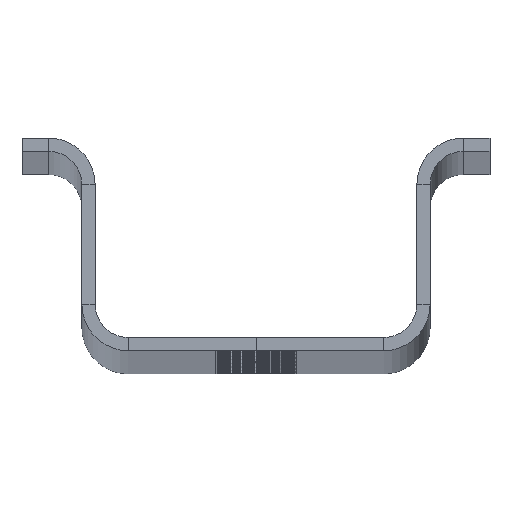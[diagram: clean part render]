
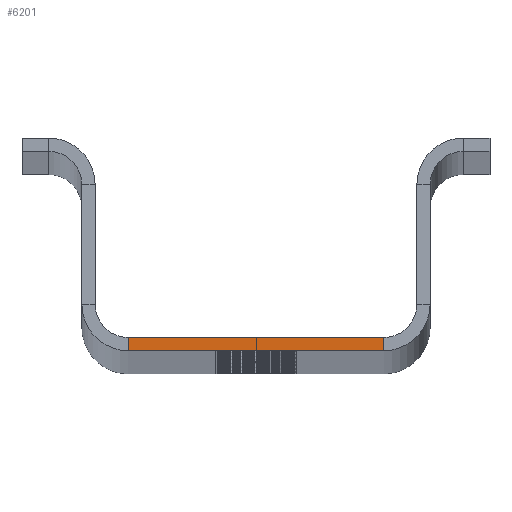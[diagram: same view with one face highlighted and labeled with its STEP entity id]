
A CAD part, top view. The second image highlights one B-rep face of the part: STEP entity #6201.
In plain terms, the highlighted planar face has unit normal (0, 0, 1).
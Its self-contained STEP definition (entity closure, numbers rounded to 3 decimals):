
#36 = VERTEX_POINT ( 'NONE', #7837 ) ;
#194 = VERTEX_POINT ( 'NONE', #5541 ) ;
#553 = VECTOR ( 'NONE', #2946, 1000. ) ;
#946 = CARTESIAN_POINT ( 'NONE',  ( -9.6, 0., 1000. ) ) ;
#1109 = AXIS2_PLACEMENT_3D ( 'NONE', #5712, #2041, #3305 ) ;
#1565 = DIRECTION ( 'NONE',  ( 0., -1., 0. ) ) ;
#1721 = VECTOR ( 'NONE', #1565, 1000. ) ;
#1831 = CARTESIAN_POINT ( 'NONE',  ( 9.6, 0., 1000. ) ) ;
#2041 = DIRECTION ( 'NONE',  ( 0., 0., 1. ) ) ;
#2276 = CARTESIAN_POINT ( 'NONE',  ( 9.6, -1., 1000. ) ) ;
#2802 = EDGE_CURVE ( 'NONE', #6170, #36, #4881, .T. ) ;
#2823 = ORIENTED_EDGE ( 'NONE', *, *, #6951, .T. ) ;
#2946 = DIRECTION ( 'NONE',  ( -1., 0., 0. ) ) ;
#3081 = DIRECTION ( 'NONE',  ( -1., 0., 0. ) ) ;
#3305 = DIRECTION ( 'NONE',  ( 1., 0., 0. ) ) ;
#3405 = ORIENTED_EDGE ( 'NONE', *, *, #5732, .T. ) ;
#4543 = PLANE ( 'NONE',  #1109 ) ;
#4621 = CARTESIAN_POINT ( 'NONE',  ( 9.6, -1., 1000. ) ) ;
#4881 = LINE ( 'NONE', #6845, #6496 ) ;
#4890 = LINE ( 'NONE', #946, #1721 ) ;
#5288 = VERTEX_POINT ( 'NONE', #1831 ) ;
#5289 = DIRECTION ( 'NONE',  ( 0., 1., 0. ) ) ;
#5323 = ORIENTED_EDGE ( 'NONE', *, *, #2802, .F. ) ;
#5458 = LINE ( 'NONE', #6534, #553 ) ;
#5541 = CARTESIAN_POINT ( 'NONE',  ( -9.6, 0., 1000. ) ) ;
#5695 = ORIENTED_EDGE ( 'NONE', *, *, #5847, .T. ) ;
#5712 = CARTESIAN_POINT ( 'NONE',  ( -13.1, 2.5, 1000. ) ) ;
#5732 = EDGE_CURVE ( 'NONE', #194, #36, #4890, .T. ) ;
#5847 = EDGE_CURVE ( 'NONE', #5288, #194, #5458, .T. ) ;
#6064 = EDGE_LOOP ( 'NONE', ( #5695, #3405, #5323, #2823 ) ) ;
#6112 = VECTOR ( 'NONE', #5289, 1000. ) ;
#6170 = VERTEX_POINT ( 'NONE', #4621 ) ;
#6201 = ADVANCED_FACE ( 'NONE', ( #6236 ), #4543, .T. ) ;
#6236 = FACE_OUTER_BOUND ( 'NONE', #6064, .T. ) ;
#6496 = VECTOR ( 'NONE', #3081, 1000. ) ;
#6534 = CARTESIAN_POINT ( 'NONE',  ( -12.1, 0., 1000. ) ) ;
#6845 = CARTESIAN_POINT ( 'NONE',  ( -12.1, -1., 1000. ) ) ;
#6951 = EDGE_CURVE ( 'NONE', #6170, #5288, #7741, .T. ) ;
#7741 = LINE ( 'NONE', #2276, #6112 ) ;
#7837 = CARTESIAN_POINT ( 'NONE',  ( -9.6, -1., 1000. ) ) ;
